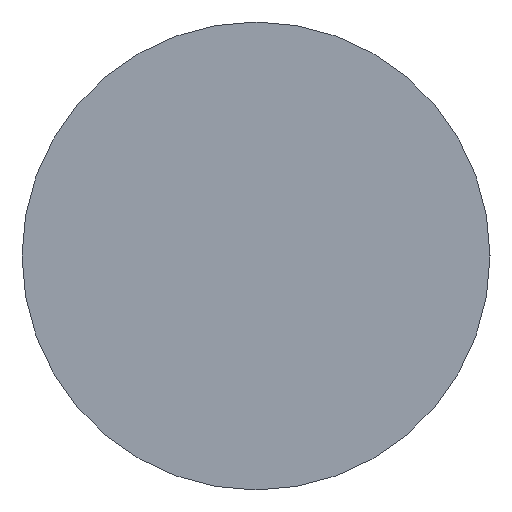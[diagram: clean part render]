
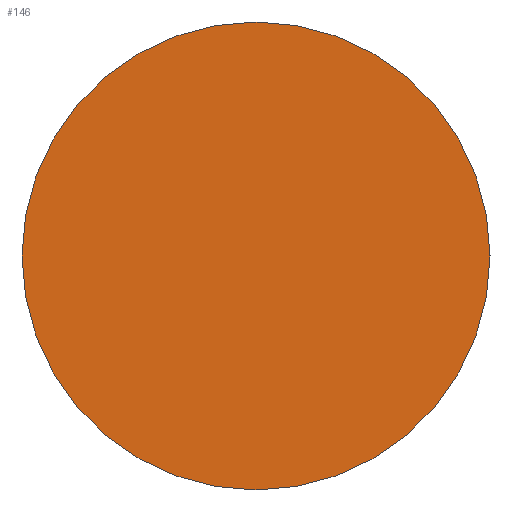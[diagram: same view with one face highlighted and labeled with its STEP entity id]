
A CAD part, left-side view. The second image highlights one B-rep face of the part: STEP entity #146.
In plain terms, the highlighted planar face has unit normal (-1, 0, 0).
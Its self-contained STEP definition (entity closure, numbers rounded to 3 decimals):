
#30 = DIRECTION ( 'NONE',  ( 0., 1., 0. ) ) ;
#43 = DIRECTION ( 'NONE',  ( 1., 0., 0. ) ) ;
#45 = AXIS2_PLACEMENT_3D ( 'NONE', #108, #115, #30 ) ;
#70 = CARTESIAN_POINT ( 'NONE',  ( 0., 0., 0. ) ) ;
#76 = EDGE_CURVE ( 'NONE', #192, #183, #148, .T. ) ;
#82 = CARTESIAN_POINT ( 'NONE',  ( 0., 3.5, 0. ) ) ;
#107 = DIRECTION ( 'NONE',  ( 0., 1., 0. ) ) ;
#108 = CARTESIAN_POINT ( 'NONE',  ( 0., 0., 0. ) ) ;
#115 = DIRECTION ( 'NONE',  ( 1., 0., 0. ) ) ;
#118 = ORIENTED_EDGE ( 'NONE', *, *, #255, .F. ) ;
#146 = ADVANCED_FACE ( 'NONE', ( #263 ), #180, .T. ) ;
#148 = CIRCLE ( 'NONE', #45, 3.5 ) ;
#150 = ORIENTED_EDGE ( 'NONE', *, *, #76, .F. ) ;
#170 = CARTESIAN_POINT ( 'NONE',  ( 0., 0., 0. ) ) ;
#177 = AXIS2_PLACEMENT_3D ( 'NONE', #170, #195, #186 ) ;
#180 = PLANE ( 'NONE',  #177 ) ;
#183 = VERTEX_POINT ( 'NONE', #199 ) ;
#186 = DIRECTION ( 'NONE',  ( 0., -1., 0. ) ) ;
#192 = VERTEX_POINT ( 'NONE', #82 ) ;
#193 = EDGE_LOOP ( 'NONE', ( #150, #118 ) ) ;
#195 = DIRECTION ( 'NONE',  ( -1., 0., 0. ) ) ;
#199 = CARTESIAN_POINT ( 'NONE',  ( 0., -3.5, 0. ) ) ;
#237 = CIRCLE ( 'NONE', #243, 3.5 ) ;
#243 = AXIS2_PLACEMENT_3D ( 'NONE', #70, #43, #107 ) ;
#255 = EDGE_CURVE ( 'NONE', #183, #192, #237, .T. ) ;
#263 = FACE_OUTER_BOUND ( 'NONE', #193, .T. ) ;
